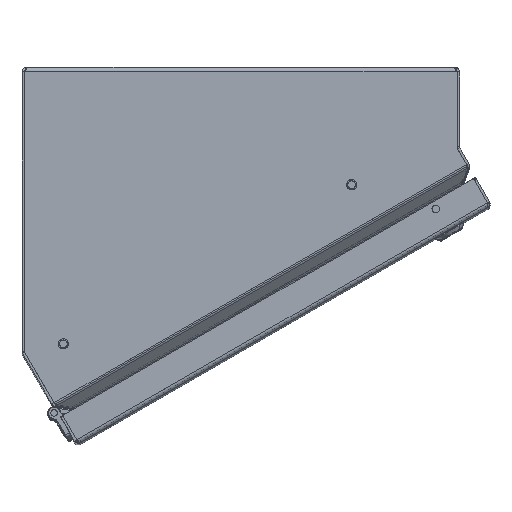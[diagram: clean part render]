
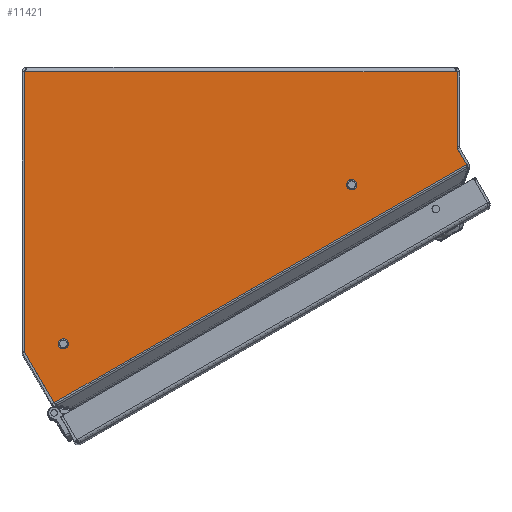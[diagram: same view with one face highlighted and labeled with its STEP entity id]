
A CAD part, top view. The second image highlights one B-rep face of the part: STEP entity #11421.
In plain terms, the highlighted planar face has unit normal (0, 0, 1).
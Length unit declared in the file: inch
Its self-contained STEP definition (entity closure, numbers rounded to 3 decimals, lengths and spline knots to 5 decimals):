
#3076=DIRECTION('',(-1.,0.,0.));
#3077=VECTOR('',#3076,10.788);
#3078=CARTESIAN_POINT('',(5.394,1.88,12.));
#3079=LINE('',#3078,#3077);
#3186=CARTESIAN_POINT('',(-4.42119,-4.8974,12.));
#3187=DIRECTION('',(0.,0.,-1.));
#3188=DIRECTION('',(-1.,0.,0.));
#3189=AXIS2_PLACEMENT_3D('',#3186,#3187,#3188);
#3194=CARTESIAN_POINT('',(-4.42119,-4.8974,12.));
#3195=DIRECTION('',(0.,0.,-1.));
#3196=DIRECTION('',(1.,0.,0.));
#3197=AXIS2_PLACEMENT_3D('',#3194,#3195,#3196);
#3202=CARTESIAN_POINT('',(2.763,-0.93214,12.));
#3203=DIRECTION('',(0.,0.,1.));
#3204=DIRECTION('',(0.,1.,0.));
#3205=AXIS2_PLACEMENT_3D('',#3202,#3203,#3204);
#3210=CARTESIAN_POINT('',(2.763,-0.93214,12.));
#3211=DIRECTION('',(0.,0.,1.));
#3212=DIRECTION('',(0.,-1.,0.));
#3213=AXIS2_PLACEMENT_3D('',#3210,#3211,#3212);
#3218=DIRECTION('',(-0.5,0.866,0.));
#3219=VECTOR('',#3218,1.45749);
#3220=CARTESIAN_POINT('',(-4.65708,-6.37082,12.));
#3221=LINE('',#3220,#3219);
#3225=CARTESIAN_POINT('',(-5.333,-5.0781,12.));
#3226=DIRECTION('',(0.,0.,1.));
#3227=DIRECTION('',(-1.,0.,0.));
#3228=AXIS2_PLACEMENT_3D('',#3225,#3226,#3227);
#3233=DIRECTION('',(0.,1.,0.));
#3234=VECTOR('',#3233,6.9581);
#3235=CARTESIAN_POINT('',(-5.394,-5.0781,12.));
#3236=LINE('',#3235,#3234);
#3240=DIRECTION('',(0.,-1.,0.));
#3241=VECTOR('',#3240,1.86392);
#3242=CARTESIAN_POINT('',(5.394,1.88,12.));
#3243=LINE('',#3242,#3241);
#3247=CARTESIAN_POINT('',(5.51301,0.01608,12.));
#3248=DIRECTION('',(0.,0.,-1.));
#3249=DIRECTION('',(-0.866,-0.5,0.));
#3250=AXIS2_PLACEMENT_3D('',#3247,#3248,#3249);
#3255=DIRECTION('',(0.5,-0.866,0.));
#3256=VECTOR('',#3255,0.44618);
#3257=CARTESIAN_POINT('',(5.40994,-0.04342,12.));
#3258=LINE('',#3257,#3256);
#3452=DIRECTION('',(0.866,0.5,0.));
#3453=VECTOR('',#3452,11.882);
#3454=CARTESIAN_POINT('',(-4.65708,-6.37082,12.));
#3455=LINE('',#3454,#3453);
#5674=CARTESIAN_POINT('',(2.763,-0.83564,12.));
#5675=CARTESIAN_POINT('',(2.763,-1.02864,12.));
#5676=VERTEX_POINT('',#5674);
#5677=VERTEX_POINT('',#5675);
#5682=CARTESIAN_POINT('',(-4.51769,-4.8974,12.));
#5683=CARTESIAN_POINT('',(-4.32469,-4.8974,12.));
#5684=VERTEX_POINT('',#5682);
#5685=VERTEX_POINT('',#5683);
#5710=CARTESIAN_POINT('',(5.394,1.88,12.));
#5711=CARTESIAN_POINT('',(5.394,0.01608,12.));
#5712=VERTEX_POINT('',#5710);
#5713=VERTEX_POINT('',#5711);
#5718=CARTESIAN_POINT('',(5.40994,-0.04342,12.));
#5719=CARTESIAN_POINT('',(5.63303,-0.42982,12.));
#5720=VERTEX_POINT('',#5718);
#5721=VERTEX_POINT('',#5719);
#5730=CARTESIAN_POINT('',(-5.394,-5.0781,12.));
#5731=CARTESIAN_POINT('',(-5.394,1.88,12.));
#5732=VERTEX_POINT('',#5730);
#5733=VERTEX_POINT('',#5731);
#5738=CARTESIAN_POINT('',(-4.65708,-6.37082,12.));
#5739=CARTESIAN_POINT('',(-5.38583,-5.1086,12.));
#5740=VERTEX_POINT('',#5738);
#5741=VERTEX_POINT('',#5739);
#11387=CARTESIAN_POINT('',(0.,0.,12.));
#11388=DIRECTION('',(0.,0.,1.));
#11389=DIRECTION('',(1.,0.,0.));
#11390=AXIS2_PLACEMENT_3D('',#11387,#11388,#11389);
#11391=PLANE('',#11390);
#11393=ORIENTED_EDGE('',*,*,#11392,.T.);
#11395=ORIENTED_EDGE('',*,*,#11394,.F.);
#11397=ORIENTED_EDGE('',*,*,#11396,.T.);
#11398=ORIENTED_EDGE('',*,*,#11372,.F.);
#11400=ORIENTED_EDGE('',*,*,#11399,.T.);
#11402=ORIENTED_EDGE('',*,*,#11401,.F.);
#11404=ORIENTED_EDGE('',*,*,#11403,.T.);
#11406=ORIENTED_EDGE('',*,*,#11405,.F.);
#11407=EDGE_LOOP('',(#11393,#11395,#11397,#11398,#11400,#11402,#11404,#11406));
#11408=FACE_OUTER_BOUND('',#11407,.F.);
#11410=ORIENTED_EDGE('',*,*,#11409,.T.);
#11412=ORIENTED_EDGE('',*,*,#11411,.T.);
#11413=EDGE_LOOP('',(#11410,#11412));
#11414=FACE_BOUND('',#11413,.F.);
#11416=ORIENTED_EDGE('',*,*,#11415,.F.);
#11418=ORIENTED_EDGE('',*,*,#11417,.F.);
#11419=EDGE_LOOP('',(#11416,#11418));
#11420=FACE_BOUND('',#11419,.F.);
#3190=CIRCLE('',#3189,0.0965);
#3198=CIRCLE('',#3197,0.0965);
#3206=CIRCLE('',#3205,0.0965);
#3214=CIRCLE('',#3213,0.0965);
#3229=CIRCLE('',#3228,0.061);
#3251=CIRCLE('',#3250,0.11901);
#11372=EDGE_CURVE('',#5712,#5733,#3079,.T.);
#11392=EDGE_CURVE('',#5740,#5741,#3221,.T.);
#11394=EDGE_CURVE('',#5732,#5741,#3229,.T.);
#11396=EDGE_CURVE('',#5732,#5733,#3236,.T.);
#11399=EDGE_CURVE('',#5712,#5713,#3243,.T.);
#11401=EDGE_CURVE('',#5720,#5713,#3251,.T.);
#11403=EDGE_CURVE('',#5720,#5721,#3258,.T.);
#11405=EDGE_CURVE('',#5740,#5721,#3455,.T.);
#11409=EDGE_CURVE('',#5676,#5677,#3206,.T.);
#11411=EDGE_CURVE('',#5677,#5676,#3214,.T.);
#11415=EDGE_CURVE('',#5684,#5685,#3190,.T.);
#11417=EDGE_CURVE('',#5685,#5684,#3198,.T.);
#11421=ADVANCED_FACE('',(#11408,#11414,#11420),#11391,.T.);
